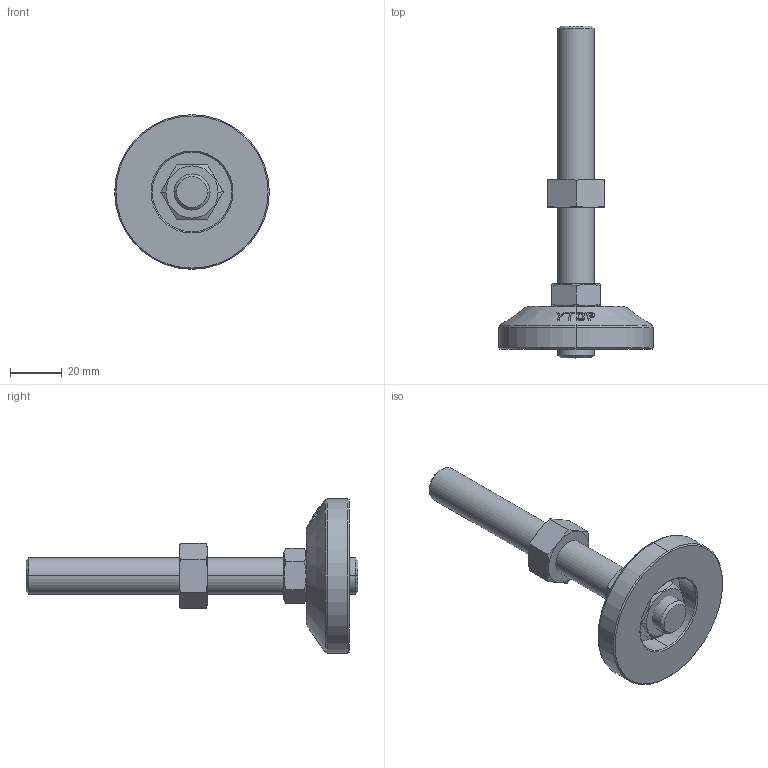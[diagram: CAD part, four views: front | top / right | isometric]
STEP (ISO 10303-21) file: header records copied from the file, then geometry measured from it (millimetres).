
FILE_DESCRIPTION (( 'STEP AP203' ), '1' );
FILE_NAME ('M-60-14100-S.STEP', '2020-09-10T06:57:35', ( '' ), ( '' ), 'SwSTEP 2.0', 'SolidWorks 2016', '' );
FILE_SCHEMA (( 'CONFIG_CONTROL_DESIGN' ));
Length unit declared in the file: millimetre
Products named in the file (5): 脚垫调节六角螺母M14; 不锈钢双头螺栓M14系列_M14X100; M-60-14100-S; M-60-1褐菜 ; hex thin nuts-grades ab-chamfered gb_GB_FASTENER_NUT_STNAB M14-N
Assembly tree (4 placements, depth 2):
  M-60-14100-S
    M-60-1褐菜 
    不锈钢双头螺栓M14系列_M14X100
    hex thin nuts-grades ab-chamfered gb_GB_FASTENER_NUT_STNAB M14-N
    脚垫调节六角螺母M14
Bounding box: 60 x 128.8 x 60 mm (x, y, z)
Volume: 58159.7 mm3; surface area: 17905.1 mm2
Topology: 4 solids, 4 shells, 133 faces, 308 edges, 192 vertices
Faces by surface type: cone 52, bspline 38, plane 29, cylinder 14
Entity records: 7778 total; most frequent: CARTESIAN_POINT 4617, ORIENTED_EDGE 616, DIRECTION 418, EDGE_CURVE 308, VERTEX_POINT 192, AXIS2_PLACEMENT_3D 176, B_SPLINE_CURVE_WITH_KNOTS 168, EDGE_LOOP 148
